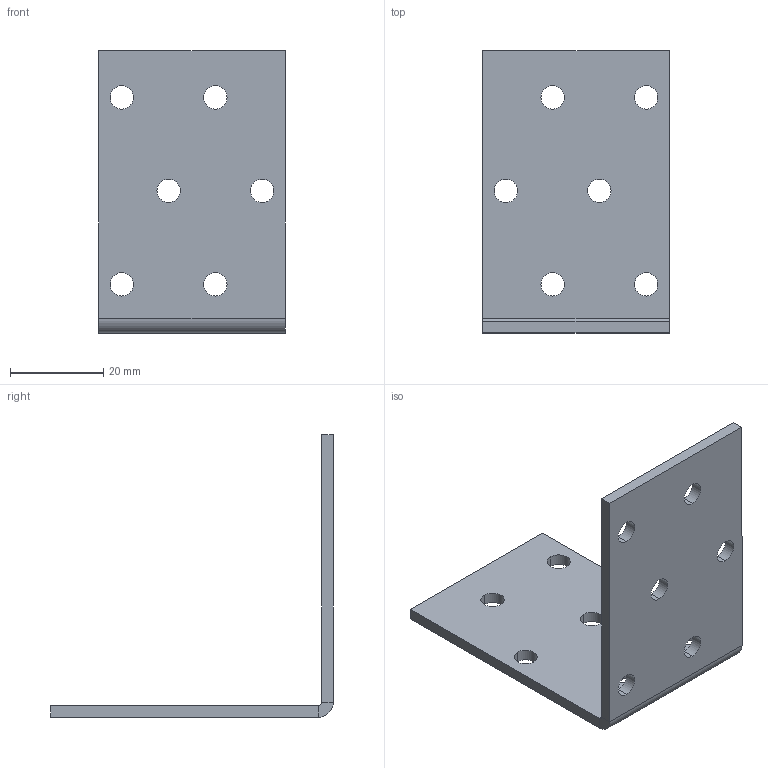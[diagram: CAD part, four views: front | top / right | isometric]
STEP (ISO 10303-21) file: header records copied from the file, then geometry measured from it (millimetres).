
FILE_DESCRIPTION (( 'STEP AP203' ), '1' );
FILE_NAME ('10524.STEP', '2020-04-20T10:56:09', ( '' ), ( '' ), 'SwSTEP 2.0', 'SolidWorks 2013', '' );
FILE_SCHEMA (( 'CONFIG_CONTROL_DESIGN' ));
Length unit declared in the file: millimetre
Products named in the file (1): 10524
Bounding box: 40 x 60.46 x 60.46 mm (x, y, z)
Volume: 11168 mm3; surface area: 10193.5 mm2
Topology: 1 solids, 1 shells, 36 faces, 98 edges, 64 vertices
Faces by surface type: cylinder 26, plane 10
Entity records: 1287 total; most frequent: DIRECTION 224, CARTESIAN_POINT 199, ORIENTED_EDGE 196, EDGE_CURVE 98, AXIS2_PLACEMENT_3D 89, VERTEX_POINT 64, EDGE_LOOP 60, CIRCLE 52
